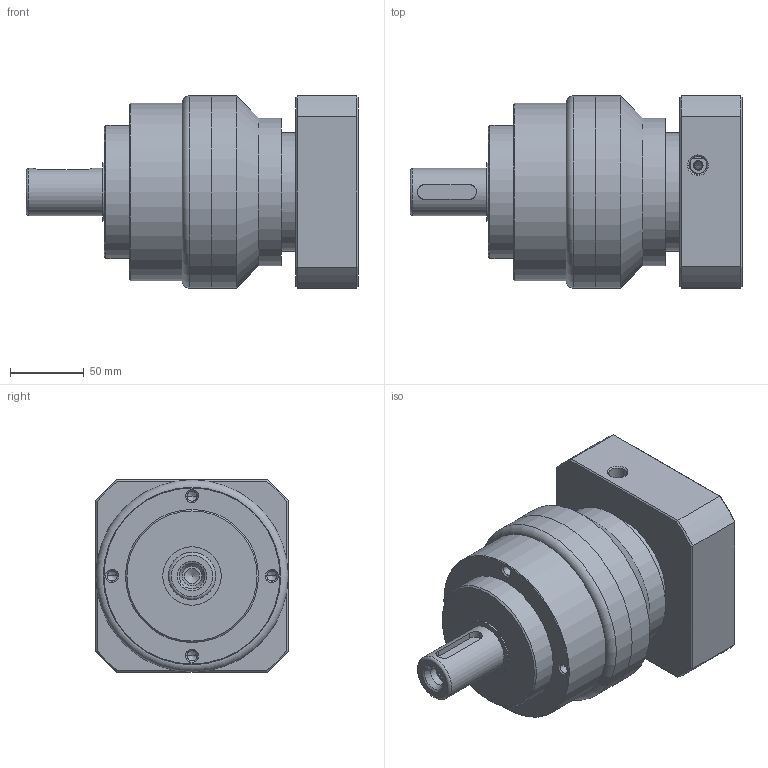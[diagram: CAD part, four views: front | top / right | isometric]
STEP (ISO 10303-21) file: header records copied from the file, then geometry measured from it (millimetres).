
FILE_DESCRIPTION(/* description */ (''),/* implementation_level */ '2;1');
FILE_NAME(/* name */ 'TE120-L2-19-95-130-M5-58-3.stp',/* time_stamp */ '2019-12-18T11:17:25+08:00',/* author */ (''),/* organization */ (''),/* preprocessor_version */ 'ST-DEVELOPER v16',/* originating_system */ 'SIEMENS PLM Software NX 10.0',/* authorisation */ '');
FILE_SCHEMA (('CONFIG_CONTROL_DESIGN'));
Length unit declared in the file: millimetre
Products named in the file (1): _model222
Bounding box: 224.51 x 130 x 130 mm (x, y, z)
Volume: 1866493.6 mm3; surface area: 199005.6 mm2
Topology: 6 solids, 6 shells, 198 faces, 467 edges, 296 vertices
Faces by surface type: plane 72, cylinder 62, cone 52, bspline 7, torus 5
Full cylindrical faces by diameter (mm): 5.2 x1, 5.5 x6, 6.5 x1, 6.8 x5, 9 x6, 10.1 x1, 12.1 x1, 13 x1, 19 x1, 22.5 x1, 26.6 x1, 27.5 x1, 28 x2, 31 x1, 32 x1, 55 x1, 80 x1, 80.013 x1, 90 x1, 95 x1, 100 x1, 120 x1, 130 x1
Entity records: 5780 total; most frequent: CARTESIAN_POINT 1573, DIRECTION 858, ORIENTED_EDGE 732, EDGE_CURVE 366, AXIS2_PLACEMENT_3D 362, EDGE_LOOP 305, VERTEX_POINT 273, FACE_BOUND 204
